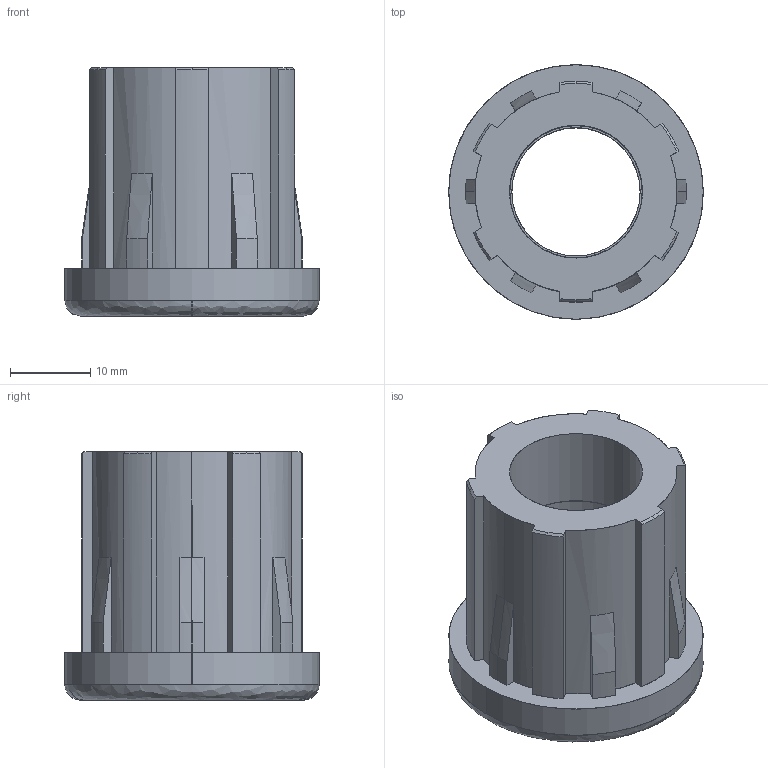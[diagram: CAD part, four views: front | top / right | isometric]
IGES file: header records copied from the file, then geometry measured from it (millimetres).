
Start section: SolidWorks IGES file using analytic representation for surfaces
Global section: file name: Y:\Tecnodin, S.L\PLAPP-Dirección - Documentos\General\Models CAD\Actiby\42006830216.IGS; native system: SolidWorks 2018; preprocessor: SolidWorks 2018; author: GerPro; date: 200225.184915; units: millimetre
Bounding box: 31.75 x 31.75 x 31 mm (x, y, z)
Surface area: 7603.2 mm2 (no closed solid volume)
Topology: 0 solids, 0 shells, 105 faces, 1006 edges, 1006 vertices
Faces by surface type: revolution 66, bspline 39
